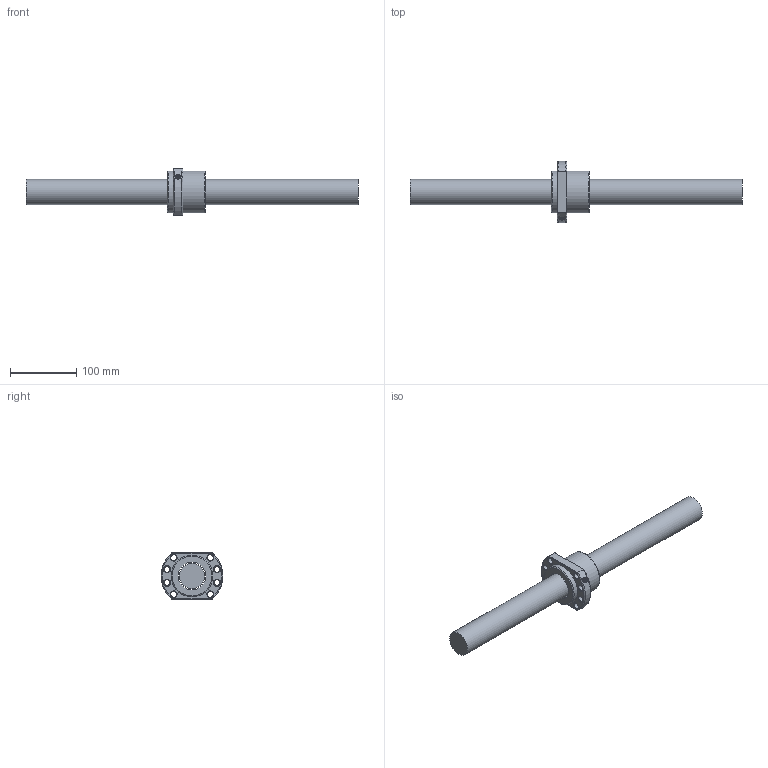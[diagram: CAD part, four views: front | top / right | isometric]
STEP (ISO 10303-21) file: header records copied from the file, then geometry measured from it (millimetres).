
FILE_DESCRIPTION (( 'STEP AP203' ), '1' );
FILE_NAME ('SFA4010-3.8.step', '2024-05-07T07:26:00', ( '' ), ( '' ), 'SwSTEP 2.0', 'SolidWorks 2022', '' );
FILE_SCHEMA (( 'CONFIG_CONTROL_DESIGN' ));
Length unit declared in the file: millimetre
Products named in the file (1): SFA4010-3.8
Bounding box: 500 x 93 x 70 mm (x, y, z)
Volume: 696598.6 mm3; surface area: 92544.5 mm2
Topology: 2 solids, 2 shells, 62 faces, 150 edges, 94 vertices
Faces by surface type: cylinder 21, cone 17, plane 13, torus 6, bspline 5
Full cylindrical faces by diameter (mm): 2.5 x1, 7 x5, 9 x8, 38 x1, 41.7 x1, 63 x2
Entity records: 3440 total; most frequent: CARTESIAN_POINT 2230, DIRECTION 224, ORIENTED_EDGE 188, EDGE_LOOP 112, AXIS2_PLACEMENT_3D 104, EDGE_CURVE 94, VERTEX_POINT 78, FACE_OUTER_BOUND 73
